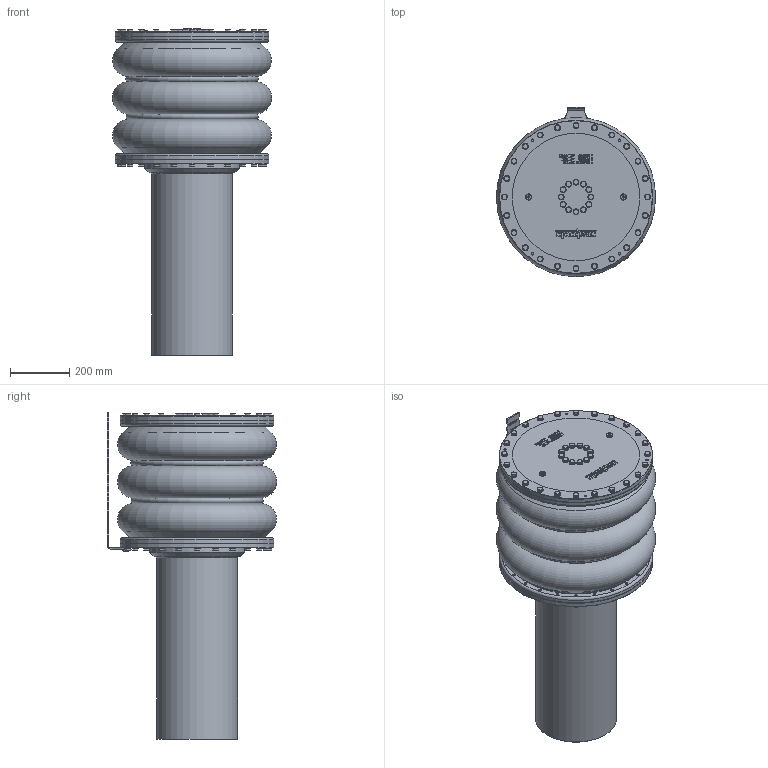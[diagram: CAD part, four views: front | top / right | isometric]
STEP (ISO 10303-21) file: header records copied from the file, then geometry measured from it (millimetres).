
FILE_DESCRIPTION(/* description */ ('Bellows Compensator AISI316 - 50L, no level indicator'),/* implementation_level */ '2;1');
FILE_NAME(/* name */ 'Bellows Compensator AISI316 - 50L, no level indicator (SA-0324-00020).stp',/* time_stamp */ '2024-12-16T14:55:30+01:00',/* author */ ('SHU'),/* organization */ ('Seatools'),/* preprocessor_version */ 'ST-DEVELOPER v19.2',/* originating_system */ 'Autodesk Inventor 2023',/* authorisation */ '');
FILE_SCHEMA (('AUTOMOTIVE_DESIGN { 1 0 10303 214 3 1 1 }'));
Length unit declared in the file: millimetre
Products named in the file (1): SA-0324-00020
Bounding box: 536.92 x 570.96 x 1102 mm (x, y, z)
Volume: 128443458.2 mm3; surface area: 3408739.8 mm2
Topology: 1 solids, 36 shells, 3082 faces, 7553 edges, 4884 vertices
Faces by surface type: plane 1420, bspline 778, cone 484, cylinder 385, torus 15
Full cylindrical faces by diameter (mm): 3 x1, 4.134 x6, 8.376 x98, 11 x12, 11.445 x2, 15.4 x62, 18.631 x2, 20 x62, 21 x2, 24.117 x1, 28 x1, 30 x2, 30.291 x1, 35 x1, 36 x1, 45 x1, 71 x1, 128.2 x4, 141.3 x4, 264.62 x1, 273 x1, 320 x1, 325 x1, 445.1 x2, 446 x2, 517 x4
Entity records: 96506 total; most frequent: CARTESIAN_POINT 26881, ORIENTED_EDGE 15062, DIRECTION 11143, EDGE_CURVE 7531, VERTEX_POINT 4883, LINE 3889, VECTOR 3889, EDGE_LOOP 3640
